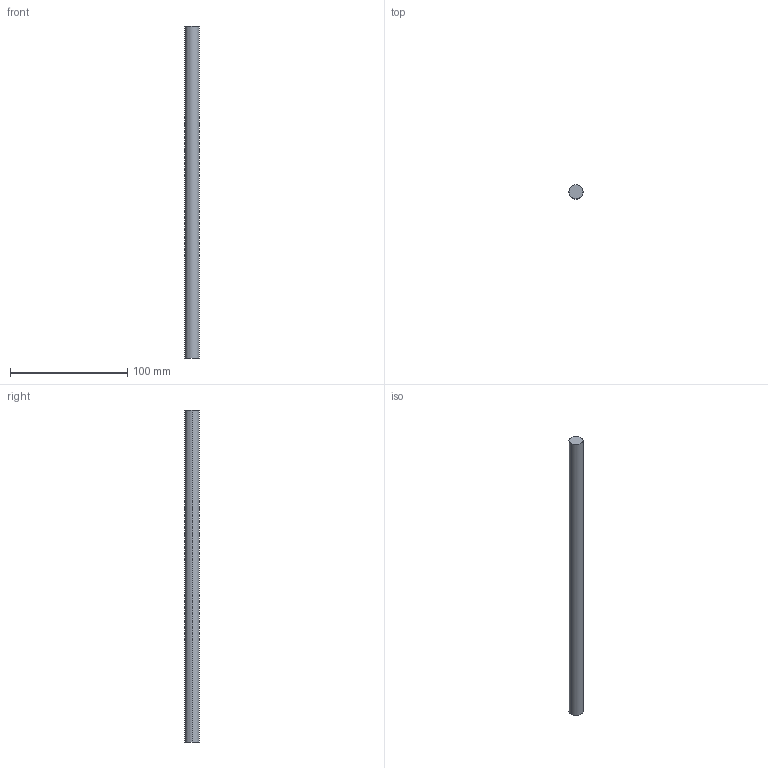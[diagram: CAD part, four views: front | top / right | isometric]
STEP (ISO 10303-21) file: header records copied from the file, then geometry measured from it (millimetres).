
FILE_DESCRIPTION (( 'STEP AP214' ), '1' );
FILE_NAME ('Innenschub H182 - S18_S19 - 400.step', '2010-09-07T14:56:01', ( 'grass' ), ( '' ), 'SwSTEP 2.0', 'SolidWorks 2010', '' );
FILE_SCHEMA (( 'AUTOMOTIVE_DESIGN' ));
Length unit declared in the file: millimetre
Products named in the file (1): Innenschub H182 - S18_S19 - 400
Bounding box: 12 x 12 x 283 mm (x, y, z)
Volume: 32006.5 mm3; surface area: 10895 mm2
Topology: 1 solids, 1 shells, 4 faces, 6 edges, 4 vertices
Faces by surface type: cylinder 2, plane 2
Entity records: 128 total; most frequent: DIRECTION 20, CARTESIAN_POINT 15, ORIENTED_EDGE 12, AXIS2_PLACEMENT_3D 9, EDGE_CURVE 6, EDGE_LOOP 4, FACE_OUTER_BOUND 4, CIRCLE 4
